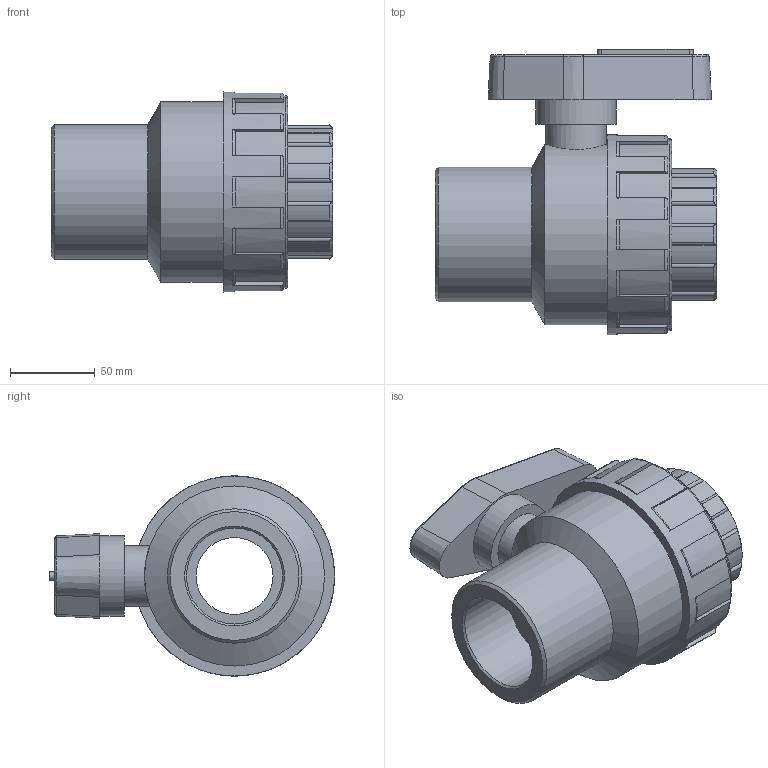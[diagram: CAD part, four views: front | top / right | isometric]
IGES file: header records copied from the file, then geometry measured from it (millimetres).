
Global section: file name: 11351020.ipt; native system: Autodesk Inventor 2015; preprocessor: unknown; author: KIM; date: 20171207.170451; units: millimetre
Bounding box: 166 x 168.18 x 118 mm (x, y, z)
Volume: 1003987.6 mm3; surface area: 112335.4 mm2
Topology: 1 solids, 1 shells, 166 faces, 447 edges, 290 vertices
Faces by surface type: plane 64, cylinder 52, revolution 34, cone 16
Full cylindrical faces by diameter (mm): 35.4 x1, 47.2 x1, 79.318 x1, 106.2 x1, 113.28 x1, 118 x1
